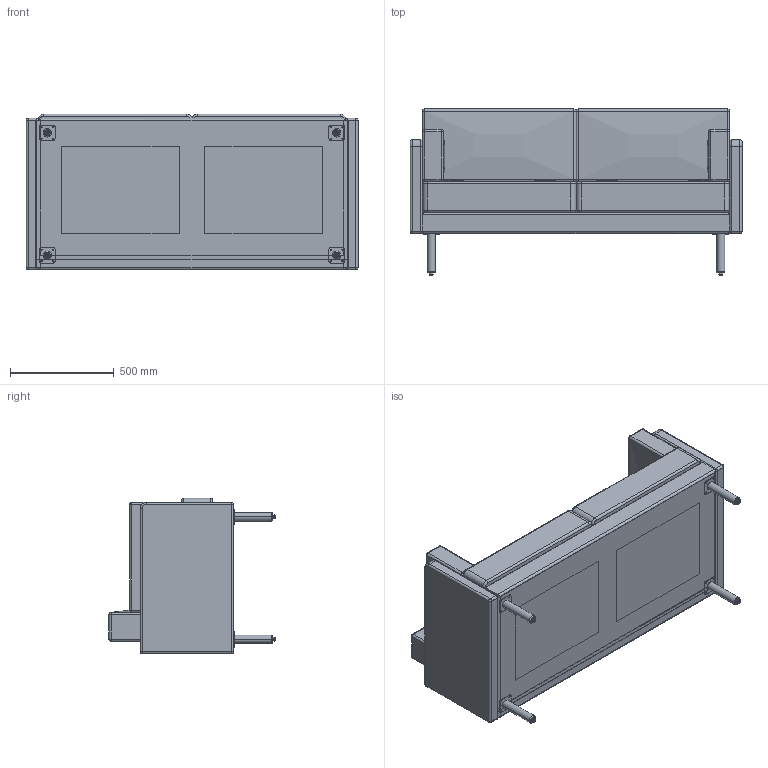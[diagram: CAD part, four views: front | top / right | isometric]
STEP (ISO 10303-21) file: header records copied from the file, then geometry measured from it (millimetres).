
FILE_DESCRIPTION (( 'STEP AP203' ), '1' );
FILE_NAME ('Edlyn Sofa W1600 x D750 x H800.STEP', '2024-04-06T08:10:37', ( '' ), ( '' ), 'SwSTEP 2.0', 'SolidWorks 2023', '' );
FILE_SCHEMA (( 'CONFIG_CONTROL_DESIGN' ));
Length unit declared in the file: millimetre
Products named in the file (9): Edlyn Sofa W1600 x D750 x H800; Edlyn Sofa Up2; MirrorSeat Cushion2; Seat Cushion2; Edlyn Sofa Structure2; MirrorEdlyn Sofa Backrest Cushion2; Leg2; Edlyn Sofa Backrest Cushion2; Edlyn Sofa Handrest2
Assembly tree (12 placements, depth 2):
  Edlyn Sofa W1600 x D750 x H800
    Edlyn Sofa Structure2
    Edlyn Sofa Up2
    Seat Cushion2
    Edlyn Sofa Backrest Cushion2
    Edlyn Sofa Handrest2  x2
    Leg2  x4
    MirrorSeat Cushion2
    MirrorEdlyn Sofa Backrest Cushion2
Bounding box: 1600 x 800 x 750 mm (x, y, z)
Volume: 481493133.7 mm3; surface area: 15999562.7 mm2
Topology: 57 solids, 57 shells, 698 faces, 1532 edges, 900 vertices
Faces by surface type: plane 392, cylinder 188, sphere 60, torus 36, cone 16, bspline 6
Entity records: 15825 total; most frequent: CARTESIAN_POINT 2873, DIRECTION 2520, ORIENTED_EDGE 2308, EDGE_CURVE 1154, VECTOR 878, LINE 878, AXIS2_PLACEMENT_3D 821, VERTEX_POINT 702
